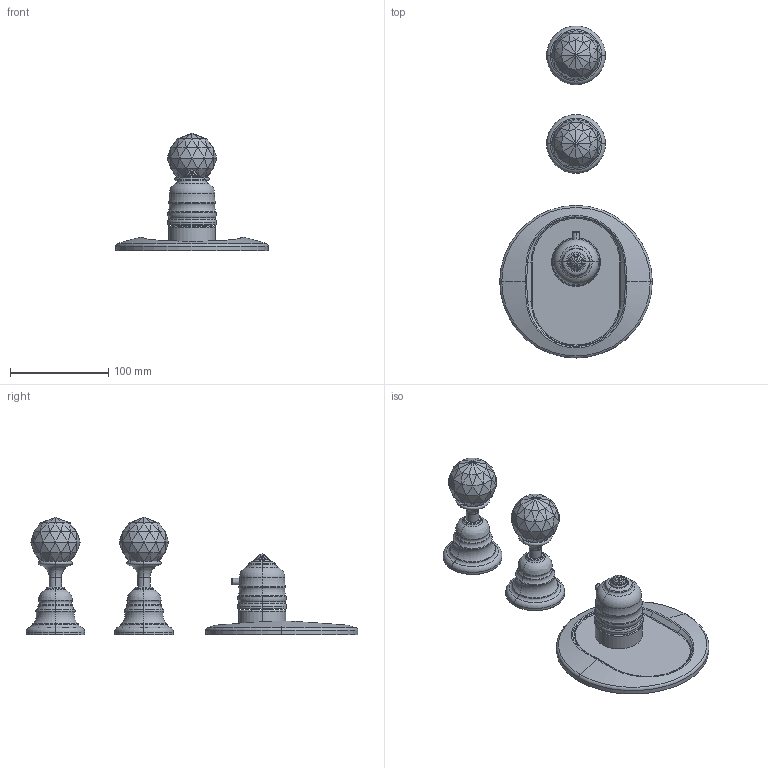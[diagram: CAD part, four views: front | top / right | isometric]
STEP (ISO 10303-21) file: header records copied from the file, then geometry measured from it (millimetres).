
FILE_DESCRIPTION((''),'2;1');
FILE_NAME('F5113X2C_FILE_3D','2013-07-29T',('ivanv'),(''),'PRO/ENGINEER BY PARAMETRIC TECHNOLOGY CORPORATION, 2012130','PRO/ENGINEER BY PARAMETRIC TECHNOLOGY CORPORATION, 2012130','');
FILE_SCHEMA(('CONFIG_CONTROL_DESIGN'));
Length unit declared in the file: millimetre
Products named in the file (1): F5113X2C_FILE_3D
Bounding box: 155 x 337.35 x 119.43 mm (x, y, z)
Volume: 506967.4 mm3; surface area: 96836.1 mm2
Topology: 6 solids, 6 shells, 490 faces, 926 edges, 457 vertices
Faces by surface type: plane 322, torus 94, cylinder 44, cone 22, bspline 6, sphere 2
Entity records: 12870 total; most frequent: CARTESIAN_POINT 3156, DIRECTION 2156, ORIENTED_EDGE 1852, EDGE_CURVE 926, AXIS2_PLACEMENT_3D 787, VECTOR 582, LINE 582, EDGE_LOOP 499
